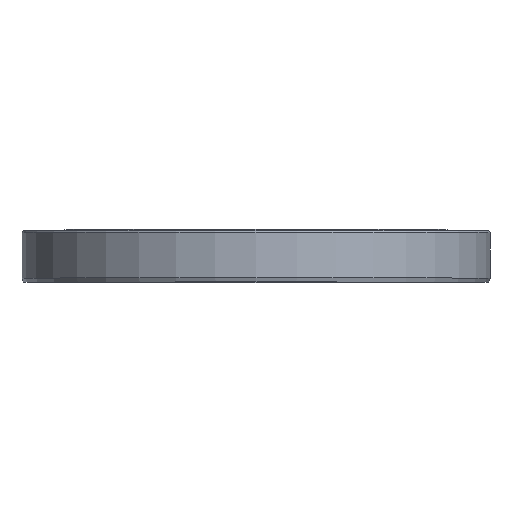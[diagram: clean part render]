
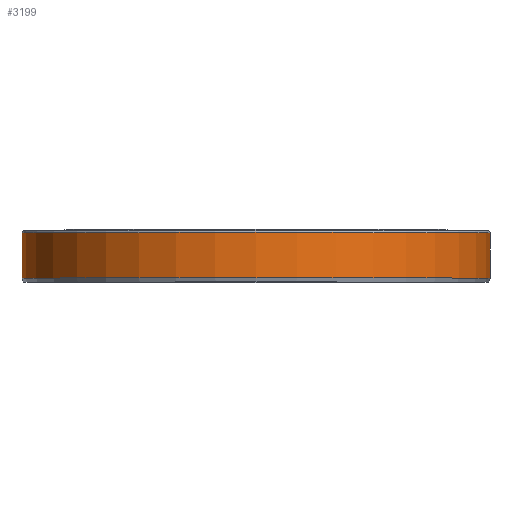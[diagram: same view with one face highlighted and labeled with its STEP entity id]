
A CAD part, top view. The second image highlights one B-rep face of the part: STEP entity #3199.
In plain terms, the highlighted cylindrical face has radius 112.5 mm (diameter 225 mm), a partial arc.
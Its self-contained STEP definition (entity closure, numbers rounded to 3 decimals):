
#1136=DIRECTION('',(0.,-1.,0.));
#1137=VECTOR('',#1136,21.8);
#1138=CARTESIAN_POINT('',(-112.5,23.8,0.));
#1139=LINE('',#1138,#1137);
#1140=DIRECTION('',(0.,1.,0.));
#1141=VECTOR('',#1140,21.8);
#1142=CARTESIAN_POINT('',(112.5,2.,0.));
#1143=LINE('',#1142,#1141);
#1149=CARTESIAN_POINT('',(0.,23.8,0.));
#1150=DIRECTION('',(0.,-1.,0.));
#1151=DIRECTION('',(1.,0.,0.));
#1152=AXIS2_PLACEMENT_3D('',#1149,#1150,#1151);
#1154=CARTESIAN_POINT('',(0.,2.,0.));
#1155=DIRECTION('',(0.,1.,0.));
#1156=DIRECTION('',(-1.,0.,0.));
#1157=AXIS2_PLACEMENT_3D('',#1154,#1155,#1156);
#1351=CARTESIAN_POINT('',(-112.5,2.,0.));
#1353=VERTEX_POINT('',#1351);
#1381=CARTESIAN_POINT('',(112.5,2.,0.));
#1383=VERTEX_POINT('',#1381);
#1493=CARTESIAN_POINT('',(-112.5,23.8,0.));
#1494=CARTESIAN_POINT('',(112.5,23.8,0.));
#1495=VERTEX_POINT('',#1493);
#1496=VERTEX_POINT('',#1494);
#3186=CARTESIAN_POINT('',(0.,0.,0.));
#3187=DIRECTION('',(0.,1.,0.));
#3188=DIRECTION('',(1.,0.,0.));
#3189=AXIS2_PLACEMENT_3D('',#3186,#3187,#3188);
#3190=CYLINDRICAL_SURFACE('',#3189,112.5);
#3191=ORIENTED_EDGE('',*,*,#3173,.F.);
#3193=ORIENTED_EDGE('',*,*,#3192,.F.);
#3194=ORIENTED_EDGE('',*,*,#3169,.F.);
#3196=ORIENTED_EDGE('',*,*,#3195,.F.);
#3197=EDGE_LOOP('',(#3191,#3193,#3194,#3196));
#3198=FACE_OUTER_BOUND('',#3197,.F.);
#1153=CIRCLE('',#1152,112.5);
#1158=CIRCLE('',#1157,112.5);
#3169=EDGE_CURVE('',#1495,#1353,#1139,.T.);
#3173=EDGE_CURVE('',#1383,#1496,#1143,.T.);
#3192=EDGE_CURVE('',#1353,#1383,#1158,.T.);
#3195=EDGE_CURVE('',#1496,#1495,#1153,.T.);
#3199=ADVANCED_FACE('',(#3198),#3190,.T.);
